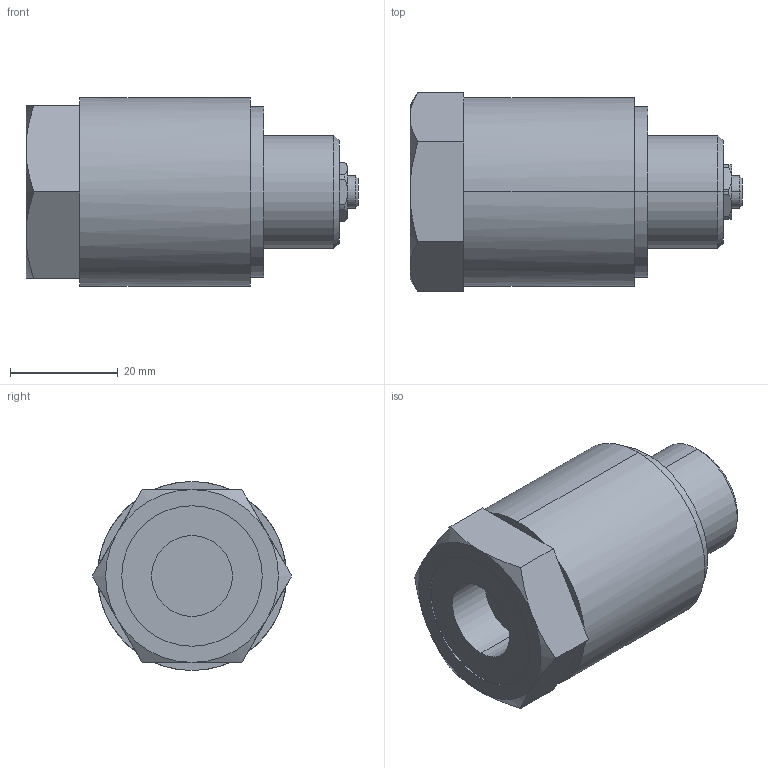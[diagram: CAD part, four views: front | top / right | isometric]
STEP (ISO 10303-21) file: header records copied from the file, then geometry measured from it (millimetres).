
FILE_DESCRIPTION (( 'STEP AP214' ), '1' );
FILE_NAME ('RBSG1012.STEP', '2017-05-08T12:22:02', ( '' ), ( '' ), 'SwSTEP 2.0', 'SolidWorks 2016', '' );
FILE_SCHEMA (( 'AUTOMOTIVE_DESIGN' ));
Length unit declared in the file: millimetre
Products named in the file (1): RBSG1012
Bounding box: 61.5 x 36.95 x 35 mm (x, y, z)
Volume: 43605.2 mm3; surface area: 9487.1 mm2
Topology: 3 solids, 3 shells, 142 faces, 327 edges, 201 vertices
Faces by surface type: plane 62, cylinder 37, cone 35, torus 8
Entity records: 5717 total; most frequent: CARTESIAN_POINT 939, DIRECTION 714, ORIENTED_EDGE 654, EDGE_CURVE 327, AXIS2_PLACEMENT_3D 300, VERTEX_POINT 201, CIRCLE 157, EDGE_LOOP 154
